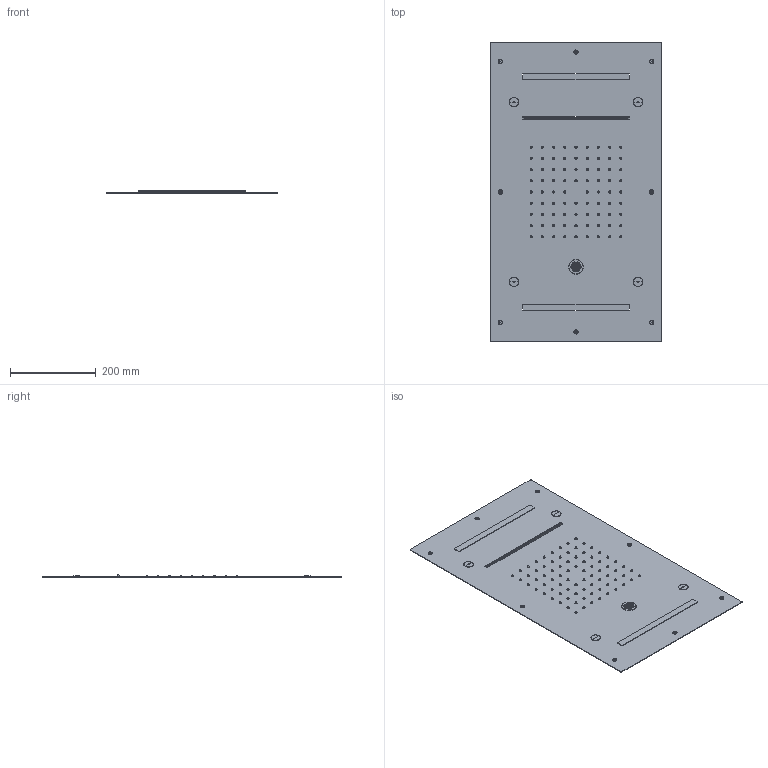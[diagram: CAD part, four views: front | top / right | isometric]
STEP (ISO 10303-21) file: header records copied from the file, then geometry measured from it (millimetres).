
FILE_DESCRIPTION((''),'2;1');
FILE_NAME('90948_SW0001','2021-04-16T11:10:19',('carloff'),(''),'CREO PARAMETRIC BY PTC INC, 2018100','CREO PARAMETRIC BY PTC INC, 2018100','');
FILE_SCHEMA(('CONFIG_CONTROL_DESIGN'));
Products named in the file (1): 90948_SW0001
Bounding box: 400 x 700 x 5.96 mm (x, y, z)
Volume: 432980.6 mm3; surface area: 580488.5 mm2
Topology: 90 solids, 90 shells, 2056 faces, 4808 edges, 2940 vertices
Faces by surface type: torus 876, cylinder 838, plane 298, cone 24, bspline 20
Entity records: 65447 total; most frequent: CARTESIAN_POINT 14295, DIRECTION 12412, ORIENTED_EDGE 9592, AXIS2_PLACEMENT_3D 5628, EDGE_CURVE 4796, CIRCLE 3592, VERTEX_POINT 2940, EDGE_LOOP 2752
